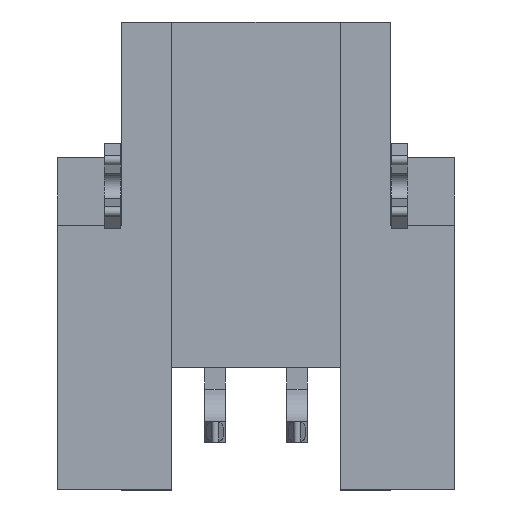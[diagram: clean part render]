
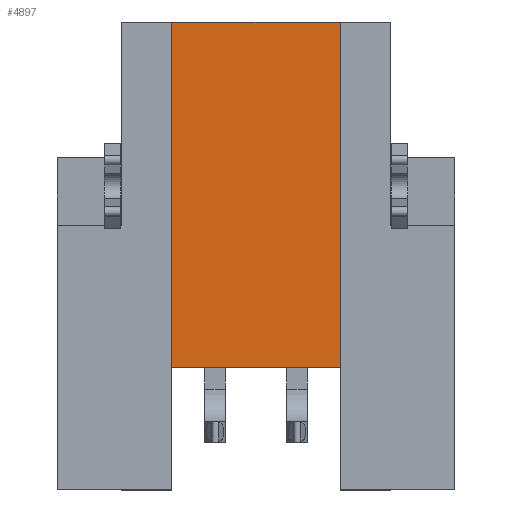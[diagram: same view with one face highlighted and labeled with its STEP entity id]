
A CAD part, front view. The second image highlights one B-rep face of the part: STEP entity #4897.
In plain terms, the highlighted planar face has unit normal (0, -1, 0).
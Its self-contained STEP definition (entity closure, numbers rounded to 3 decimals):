
#44 = CARTESIAN_POINT ( 'NONE',  ( 2.61, 0.5, 0. ) ) ;
#134 = VECTOR ( 'NONE', #2460, 1000. ) ;
#271 = DIRECTION ( 'NONE',  ( 0., 0., 1. ) ) ;
#280 = LINE ( 'NONE', #44, #3827 ) ;
#393 = VERTEX_POINT ( 'NONE', #3220 ) ;
#678 = FACE_OUTER_BOUND ( 'NONE', #4266, .T. ) ;
#682 = LINE ( 'NONE', #3729, #134 ) ;
#875 = LINE ( 'NONE', #5492, #3867 ) ;
#968 = PLANE ( 'NONE',  #3289 ) ;
#1227 = VERTEX_POINT ( 'NONE', #2484 ) ;
#1242 = CARTESIAN_POINT ( 'NONE',  ( 2.61, 0.5, 10.7 ) ) ;
#1351 = CARTESIAN_POINT ( 'NONE',  ( 2.61, 0.5, -3.8 ) ) ;
#1927 = LINE ( 'NONE', #1242, #4757 ) ;
#2110 = DIRECTION ( 'NONE',  ( -1., 0., 0. ) ) ;
#2384 = EDGE_CURVE ( 'NONE', #5541, #4099, #280, .T. ) ;
#2460 = DIRECTION ( 'NONE',  ( 0., 0., 1. ) ) ;
#2484 = CARTESIAN_POINT ( 'NONE',  ( 2.61, 0.5, 10.7 ) ) ;
#2676 = ORIENTED_EDGE ( 'NONE', *, *, #4035, .F. ) ;
#3005 = CARTESIAN_POINT ( 'NONE',  ( -2.61, 0.5, 0. ) ) ;
#3220 = CARTESIAN_POINT ( 'NONE',  ( -2.61, 0.5, 10.7 ) ) ;
#3289 = AXIS2_PLACEMENT_3D ( 'NONE', #1351, #4386, #4006 ) ;
#3686 = ORIENTED_EDGE ( 'NONE', *, *, #4578, .T. ) ;
#3729 = CARTESIAN_POINT ( 'NONE',  ( -2.61, 0.5, -3.8 ) ) ;
#3827 = VECTOR ( 'NONE', #3967, 1000. ) ;
#3867 = VECTOR ( 'NONE', #271, 1000. ) ;
#3967 = DIRECTION ( 'NONE',  ( -1., 0., 0. ) ) ;
#4006 = DIRECTION ( 'NONE',  ( 1., 0., 0. ) ) ;
#4035 = EDGE_CURVE ( 'NONE', #4099, #393, #682, .T. ) ;
#4099 = VERTEX_POINT ( 'NONE', #3005 ) ;
#4266 = EDGE_LOOP ( 'NONE', ( #5320, #3686, #4365, #2676 ) ) ;
#4365 = ORIENTED_EDGE ( 'NONE', *, *, #4509, .T. ) ;
#4386 = DIRECTION ( 'NONE',  ( 0., 1., 0. ) ) ;
#4414 = CARTESIAN_POINT ( 'NONE',  ( 2.61, 0.5, 0. ) ) ;
#4509 = EDGE_CURVE ( 'NONE', #1227, #393, #1927, .T. ) ;
#4578 = EDGE_CURVE ( 'NONE', #5541, #1227, #875, .T. ) ;
#4757 = VECTOR ( 'NONE', #2110, 1000. ) ;
#4897 = ADVANCED_FACE ( 'NONE', ( #678 ), #968, .F. ) ;
#5320 = ORIENTED_EDGE ( 'NONE', *, *, #2384, .F. ) ;
#5492 = CARTESIAN_POINT ( 'NONE',  ( 2.61, 0.5, -3.8 ) ) ;
#5541 = VERTEX_POINT ( 'NONE', #4414 ) ;
